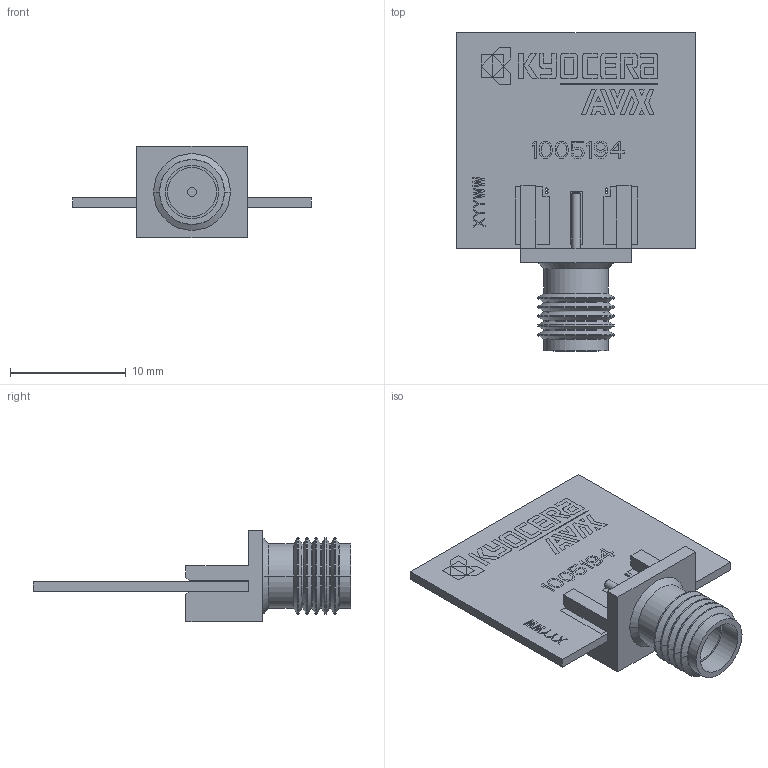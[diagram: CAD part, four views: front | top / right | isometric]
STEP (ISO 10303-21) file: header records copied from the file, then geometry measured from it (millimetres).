
FILE_DESCRIPTION((''),'2;1');
FILE_NAME('1005194_ASM','2024-05-02T15:21:09',('mrodriguez'),(''),'CREO PARAMETRIC BY PTC INC, 2024014','CREO PARAMETRIC BY PTC INC, 2024014','');
FILE_SCHEMA(('AUTOMOTIVE_DESIGN { 1 0 10303 214 1 1 1 1 }'));
Length unit declared in the file: millimetre
Products named in the file (3): 1005194; 1000534; 1005194_ASM
Assembly tree (2 placements, depth 2):
  1005194_ASM
    1005194
    1000534
Bounding box: 20.6 x 27.49 x 7.92 mm (x, y, z)
Volume: 559.8 mm3; surface area: 2186.9 mm2
Topology: 2 solids, 44 shells, 230 faces, 936 edges, 764 vertices
Faces by surface type: plane 106, cylinder 70, cone 54
Entity records: 14265 total; most frequent: CARTESIAN_POINT 1946, DIRECTION 1637, ORIENTED_EDGE 1358, PRESENTATION_STYLE_ASSIGNMENT 1157, STYLED_ITEM 1122, CURVE_STYLE 936, EDGE_CURVE 936, VERTEX_POINT 764
